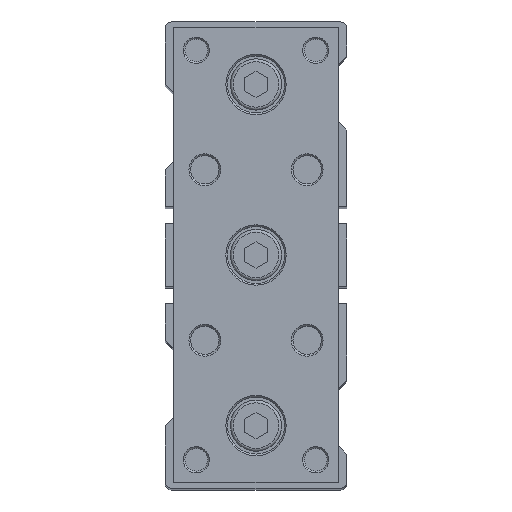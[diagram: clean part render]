
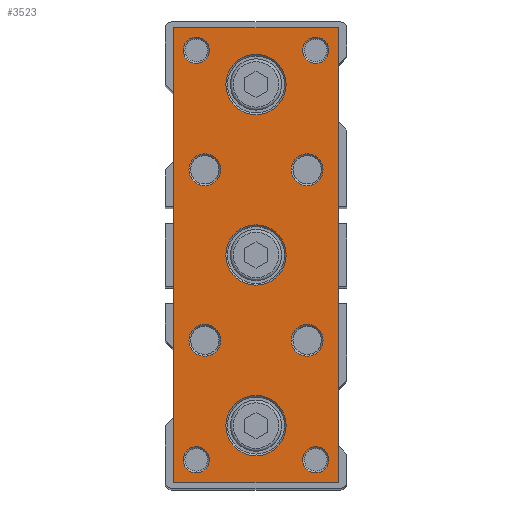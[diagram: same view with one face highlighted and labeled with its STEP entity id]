
A CAD part, top view. The second image highlights one B-rep face of the part: STEP entity #3523.
In plain terms, the highlighted planar face has unit normal (0, 0, 1).
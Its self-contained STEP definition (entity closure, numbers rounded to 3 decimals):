
#3166=CARTESIAN_POINT('',(14.5,40.0,12.));
#3167=VERTEX_POINT('',#3166);
#3168=CARTESIAN_POINT('',(14.5,-40.0,12.));
#3169=VERTEX_POINT('',#3168);
#3170=CARTESIAN_POINT('',(14.5,40.0,12.));
#3171=DIRECTION('',(0.0,-1.0,0.0));
#3172=VECTOR('',#3171,80.0);
#3173=LINE('',#3170,#3172);
#3174=EDGE_CURVE('',#3167,#3169,#3173,.T.);
#3300=CARTESIAN_POINT('',(-14.5,-40.0,12.));
#3301=VERTEX_POINT('',#3300);
#3302=CARTESIAN_POINT('',(-14.5,40.0,12.));
#3303=VERTEX_POINT('',#3302);
#3304=CARTESIAN_POINT('',(-14.5,-40.0,12.));
#3305=DIRECTION('',(0.0,1.0,0.0));
#3306=VECTOR('',#3305,80.0);
#3307=LINE('',#3304,#3306);
#3308=EDGE_CURVE('',#3301,#3303,#3307,.T.);
#3377=CARTESIAN_POINT('',(5.3,0.,12.));
#3378=VERTEX_POINT('',#3377);
#3379=CARTESIAN_POINT('',(0.0,0.0,12.));
#3380=DIRECTION('',(0.0,0.0,1.0));
#3381=DIRECTION('',(-1.0,0.0,0.0));
#3382=AXIS2_PLACEMENT_3D('',#3379,#3380,#3381);
#3383=CIRCLE('',#3382,5.3);
#3384=EDGE_CURVE('',#3378,#3378,#3383,.T.);
#3389=CARTESIAN_POINT('',(0.0,0.,12.));
#3390=DIRECTION('',(0.0,0.0,1.0));
#3391=DIRECTION('',(1.0,0.0,0.0));
#3392=AXIS2_PLACEMENT_3D('',#3389,#3390,#3391);
#3393=PLANE('',#3392);
#3394=ORIENTED_EDGE('',*,*,#3174,.F.);
#3395=CARTESIAN_POINT('',(-14.5,40.0,12.));
#3396=DIRECTION('',(1.0,0.0,0.0));
#3397=VECTOR('',#3396,29.);
#3398=LINE('',#3395,#3397);
#3399=EDGE_CURVE('',#3303,#3167,#3398,.T.);
#3400=ORIENTED_EDGE('',*,*,#3399,.F.);
#3401=ORIENTED_EDGE('',*,*,#3308,.F.);
#3402=CARTESIAN_POINT('',(14.5,-40.0,12.));
#3403=DIRECTION('',(-1.0,0.0,0.0));
#3404=VECTOR('',#3403,29.);
#3405=LINE('',#3402,#3404);
#3406=EDGE_CURVE('',#3169,#3301,#3405,.T.);
#3407=ORIENTED_EDGE('',*,*,#3406,.F.);
#3408=EDGE_LOOP('',(#3394,#3400,#3401,#3407));
#3409=FACE_OUTER_BOUND('',#3408,.T.);
#3410=CARTESIAN_POINT('',(5.3,-30.0,12.));
#3411=VERTEX_POINT('',#3410);
#3412=CARTESIAN_POINT('',(0.0,-30.0,12.));
#3413=DIRECTION('',(0.0,0.0,1.0));
#3414=DIRECTION('',(-1.0,0.0,0.0));
#3415=AXIS2_PLACEMENT_3D('',#3412,#3413,#3414);
#3416=CIRCLE('',#3415,5.3);
#3417=EDGE_CURVE('',#3411,#3411,#3416,.T.);
#3418=ORIENTED_EDGE('',*,*,#3417,.F.);
#3419=EDGE_LOOP('',(#3418));
#3420=FACE_BOUND('',#3419,.T.);
#3421=CARTESIAN_POINT('',(12.8,-36.0,12.));
#3422=VERTEX_POINT('',#3421);
#3423=CARTESIAN_POINT('',(10.5,-36.0,12.));
#3424=DIRECTION('',(0.0,0.0,1.0));
#3425=DIRECTION('',(-1.0,0.0,0.0));
#3426=AXIS2_PLACEMENT_3D('',#3423,#3424,#3425);
#3427=CIRCLE('',#3426,2.3);
#3428=EDGE_CURVE('',#3422,#3422,#3427,.T.);
#3429=ORIENTED_EDGE('',*,*,#3428,.F.);
#3430=EDGE_LOOP('',(#3429));
#3431=FACE_BOUND('',#3430,.T.);
#3432=CARTESIAN_POINT('',(12.8,36.0,12.));
#3433=VERTEX_POINT('',#3432);
#3434=CARTESIAN_POINT('',(10.5,36.0,12.));
#3435=DIRECTION('',(0.0,0.0,1.0));
#3436=DIRECTION('',(-1.0,0.0,0.0));
#3437=AXIS2_PLACEMENT_3D('',#3434,#3435,#3436);
#3438=CIRCLE('',#3437,2.3);
#3439=EDGE_CURVE('',#3433,#3433,#3438,.T.);
#3440=ORIENTED_EDGE('',*,*,#3439,.F.);
#3441=EDGE_LOOP('',(#3440));
#3442=FACE_BOUND('',#3441,.T.);
#3443=CARTESIAN_POINT('',(-8.2,-36.0,12.));
#3444=VERTEX_POINT('',#3443);
#3445=CARTESIAN_POINT('',(-10.5,-36.0,12.));
#3446=DIRECTION('',(0.0,0.0,1.0));
#3447=DIRECTION('',(-1.0,0.0,0.0));
#3448=AXIS2_PLACEMENT_3D('',#3445,#3446,#3447);
#3449=CIRCLE('',#3448,2.3);
#3450=EDGE_CURVE('',#3444,#3444,#3449,.T.);
#3451=ORIENTED_EDGE('',*,*,#3450,.F.);
#3452=EDGE_LOOP('',(#3451));
#3453=FACE_BOUND('',#3452,.T.);
#3454=CARTESIAN_POINT('',(-6.2,15.0,12.));
#3455=VERTEX_POINT('',#3454);
#3456=CARTESIAN_POINT('',(-9.,15.0,12.));
#3457=DIRECTION('',(0.0,0.0,1.0));
#3458=DIRECTION('',(-1.0,0.0,0.0));
#3459=AXIS2_PLACEMENT_3D('',#3456,#3457,#3458);
#3460=CIRCLE('',#3459,2.8);
#3461=EDGE_CURVE('',#3455,#3455,#3460,.T.);
#3462=ORIENTED_EDGE('',*,*,#3461,.F.);
#3463=EDGE_LOOP('',(#3462));
#3464=FACE_BOUND('',#3463,.T.);
#3465=CARTESIAN_POINT('',(-8.2,36.0,12.));
#3466=VERTEX_POINT('',#3465);
#3467=CARTESIAN_POINT('',(-10.5,36.0,12.));
#3468=DIRECTION('',(0.0,0.0,1.0));
#3469=DIRECTION('',(-1.0,0.0,0.0));
#3470=AXIS2_PLACEMENT_3D('',#3467,#3468,#3469);
#3471=CIRCLE('',#3470,2.3);
#3472=EDGE_CURVE('',#3466,#3466,#3471,.T.);
#3473=ORIENTED_EDGE('',*,*,#3472,.F.);
#3474=EDGE_LOOP('',(#3473));
#3475=FACE_BOUND('',#3474,.T.);
#3476=CARTESIAN_POINT('',(-6.2,-15.0,12.));
#3477=VERTEX_POINT('',#3476);
#3478=CARTESIAN_POINT('',(-9.,-15.0,12.));
#3479=DIRECTION('',(0.0,0.0,1.0));
#3480=DIRECTION('',(-1.0,0.0,0.0));
#3481=AXIS2_PLACEMENT_3D('',#3478,#3479,#3480);
#3482=CIRCLE('',#3481,2.8);
#3483=EDGE_CURVE('',#3477,#3477,#3482,.T.);
#3484=ORIENTED_EDGE('',*,*,#3483,.F.);
#3485=EDGE_LOOP('',(#3484));
#3486=FACE_BOUND('',#3485,.T.);
#3487=CARTESIAN_POINT('',(11.8,-15.0,12.));
#3488=VERTEX_POINT('',#3487);
#3489=CARTESIAN_POINT('',(9.0,-15.0,12.));
#3490=DIRECTION('',(0.0,0.0,1.0));
#3491=DIRECTION('',(-1.0,0.0,0.0));
#3492=AXIS2_PLACEMENT_3D('',#3489,#3490,#3491);
#3493=CIRCLE('',#3492,2.8);
#3494=EDGE_CURVE('',#3488,#3488,#3493,.T.);
#3495=ORIENTED_EDGE('',*,*,#3494,.F.);
#3496=EDGE_LOOP('',(#3495));
#3497=FACE_BOUND('',#3496,.T.);
#3498=CARTESIAN_POINT('',(11.8,15.0,12.));
#3499=VERTEX_POINT('',#3498);
#3500=CARTESIAN_POINT('',(9.0,15.0,12.));
#3501=DIRECTION('',(0.0,0.0,1.0));
#3502=DIRECTION('',(-1.0,0.0,0.0));
#3503=AXIS2_PLACEMENT_3D('',#3500,#3501,#3502);
#3504=CIRCLE('',#3503,2.8);
#3505=EDGE_CURVE('',#3499,#3499,#3504,.T.);
#3506=ORIENTED_EDGE('',*,*,#3505,.F.);
#3507=EDGE_LOOP('',(#3506));
#3508=FACE_BOUND('',#3507,.T.);
#3509=CARTESIAN_POINT('',(5.3,30.0,12.));
#3510=VERTEX_POINT('',#3509);
#3511=CARTESIAN_POINT('',(0.0,30.0,12.));
#3512=DIRECTION('',(0.0,0.0,1.0));
#3513=DIRECTION('',(-1.0,0.0,0.0));
#3514=AXIS2_PLACEMENT_3D('',#3511,#3512,#3513);
#3515=CIRCLE('',#3514,5.3);
#3516=EDGE_CURVE('',#3510,#3510,#3515,.T.);
#3517=ORIENTED_EDGE('',*,*,#3516,.F.);
#3518=EDGE_LOOP('',(#3517));
#3519=FACE_BOUND('',#3518,.T.);
#3520=ORIENTED_EDGE('',*,*,#3384,.F.);
#3521=EDGE_LOOP('',(#3520));
#3522=FACE_BOUND('',#3521,.T.);
#3523=ADVANCED_FACE('',(#3409,#3420,#3431,#3442,#3453,#3464,#3475,#3486,#3497,#3508,#3519,#3522),#3393,.T.);
